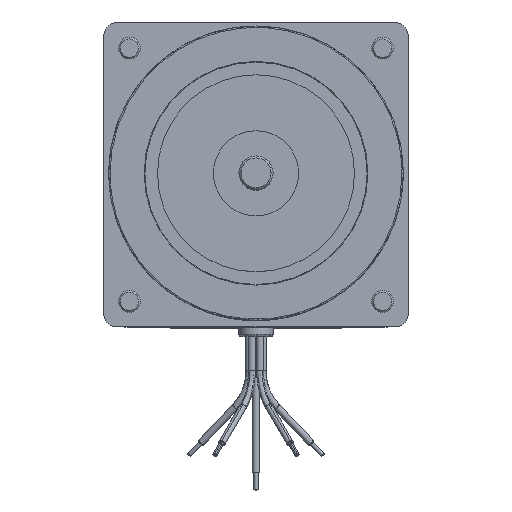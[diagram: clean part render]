
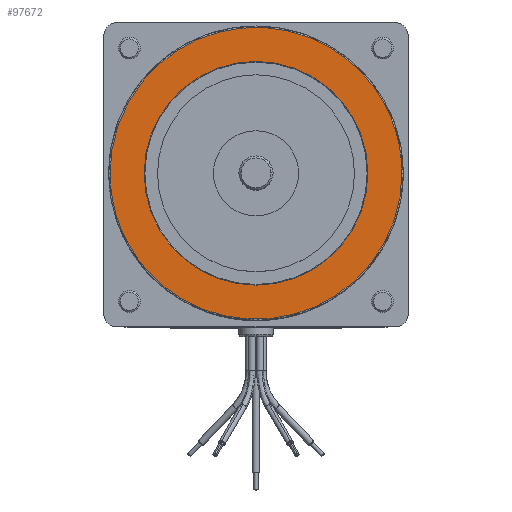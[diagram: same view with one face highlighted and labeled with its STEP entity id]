
A CAD part, top view. The second image highlights one B-rep face of the part: STEP entity #97672.
In plain terms, the highlighted planar face has unit normal (0, 0, 1).
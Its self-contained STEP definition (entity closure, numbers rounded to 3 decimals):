
#5402 = CARTESIAN_POINT ( 'NONE',  ( 2.083, 0., 0. ) ) ;
#5407 = CARTESIAN_POINT ( 'NONE',  ( -2.083, 0., 0. ) ) ;
#14954 = VERTEX_POINT ( 'NONE', #5402 ) ;
#14955 = VERTEX_POINT ( 'NONE', #5407 ) ;
#17675 = AXIS2_PLACEMENT_3D ( 'NONE', #46285, #46287, #46289 ) ;
#25602 = FACE_OUTER_BOUND ( 'NONE', #65728, .T. ) ;
#25614 = FACE_BOUND ( 'NONE', #65680, .T. ) ;
#27897 = AXIS2_PLACEMENT_3D ( 'NONE', #33271, #33277, #33278 ) ;
#33271 = CARTESIAN_POINT ( 'NONE',  ( -2.07, 0., 0. ) ) ;
#33272 = PLANE ( 'NONE',  #27897 ) ;
#33277 = DIRECTION ( 'NONE',  ( 0., 0., 1. ) ) ;
#33278 = DIRECTION ( 'NONE',  ( 1., 0., 0. ) ) ;
#39587 =( BOUNDED_CURVE ( )  B_SPLINE_CURVE ( 3, ( #53525, #53522, #53575, #53576 ),
 .UNSPECIFIED., .F., .F. ) 
 B_SPLINE_CURVE_WITH_KNOTS ( ( 4, 4 ),
 ( 0.5, 1. ),
 .UNSPECIFIED. ) 
 CURVE ( )  GEOMETRIC_REPRESENTATION_ITEM ( )  RATIONAL_B_SPLINE_CURVE ( ( 1., 0.333, 0.333, 1. ) ) 
 REPRESENTATION_ITEM ( '' )  );
#40365 =( BOUNDED_CURVE ( )  B_SPLINE_CURVE ( 3, ( #103484, #103498, #103508, #103510 ),
 .UNSPECIFIED., .F., .F. ) 
 B_SPLINE_CURVE_WITH_KNOTS ( ( 4, 4 ),
 ( 0., 0.5 ),
 .UNSPECIFIED. ) 
 CURVE ( )  GEOMETRIC_REPRESENTATION_ITEM ( )  RATIONAL_B_SPLINE_CURVE ( ( 1., 0.333, 0.333, 1. ) ) 
 REPRESENTATION_ITEM ( '' )  );
#46285 = CARTESIAN_POINT ( 'NONE',  ( 0., 0., 0. ) ) ;
#46287 = DIRECTION ( 'NONE',  ( 0., 0., -1. ) ) ;
#46289 = DIRECTION ( 'NONE',  ( 1., 0., 0. ) ) ;
#47997 = CIRCLE ( 'NONE', #17675, 2.083 ) ;
#51663 = VERTEX_POINT ( 'NONE', #112174 ) ;
#51677 = VERTEX_POINT ( 'NONE', #112182 ) ;
#53522 = CARTESIAN_POINT ( 'NONE',  ( 2.718, -5.436, 0. ) ) ;
#53525 = CARTESIAN_POINT ( 'NONE',  ( 2.718, 0., 0. ) ) ;
#53575 = CARTESIAN_POINT ( 'NONE',  ( -2.718, -5.436, 0. ) ) ;
#53576 = CARTESIAN_POINT ( 'NONE',  ( -2.718, 0., 0. ) ) ;
#65680 = EDGE_LOOP ( 'NONE', ( #119768, #119770 ) ) ;
#65728 = EDGE_LOOP ( 'NONE', ( #119764, #119766 ) ) ;
#85582 = EDGE_CURVE ( 'NONE', #14955, #14954, #47997, .T. ) ;
#85694 = EDGE_CURVE ( 'NONE', #51677, #51663, #39587, .T. ) ;
#92669 = CIRCLE ( 'NONE', #111444, 2.083 ) ;
#96240 = CARTESIAN_POINT ( 'NONE',  ( 0., 0., 0. ) ) ;
#96241 = DIRECTION ( 'NONE',  ( 0., 0., -1. ) ) ;
#96242 = DIRECTION ( 'NONE',  ( 1., 0., 0. ) ) ;
#97672 = ADVANCED_FACE ( 'NONE', ( #25602, #25614 ), #33272, .T. ) ;
#103484 = CARTESIAN_POINT ( 'NONE',  ( -2.718, 0., 0. ) ) ;
#103498 = CARTESIAN_POINT ( 'NONE',  ( -2.718, 5.436, 0. ) ) ;
#103508 = CARTESIAN_POINT ( 'NONE',  ( 2.718, 5.436, 0. ) ) ;
#103510 = CARTESIAN_POINT ( 'NONE',  ( 2.718, 0., 0. ) ) ;
#111444 = AXIS2_PLACEMENT_3D ( 'NONE', #96240, #96241, #96242 ) ;
#112174 = CARTESIAN_POINT ( 'NONE',  ( -2.718, 0., 0. ) ) ;
#112182 = CARTESIAN_POINT ( 'NONE',  ( 2.718, 0., 0. ) ) ;
#119764 = ORIENTED_EDGE ( 'NONE', *, *, #127269, .F. ) ;
#119766 = ORIENTED_EDGE ( 'NONE', *, *, #85694, .F. ) ;
#119768 = ORIENTED_EDGE ( 'NONE', *, *, #125204, .T. ) ;
#119770 = ORIENTED_EDGE ( 'NONE', *, *, #85582, .T. ) ;
#125204 = EDGE_CURVE ( 'NONE', #14954, #14955, #92669, .T. ) ;
#127269 = EDGE_CURVE ( 'NONE', #51663, #51677, #40365, .T. ) ;
